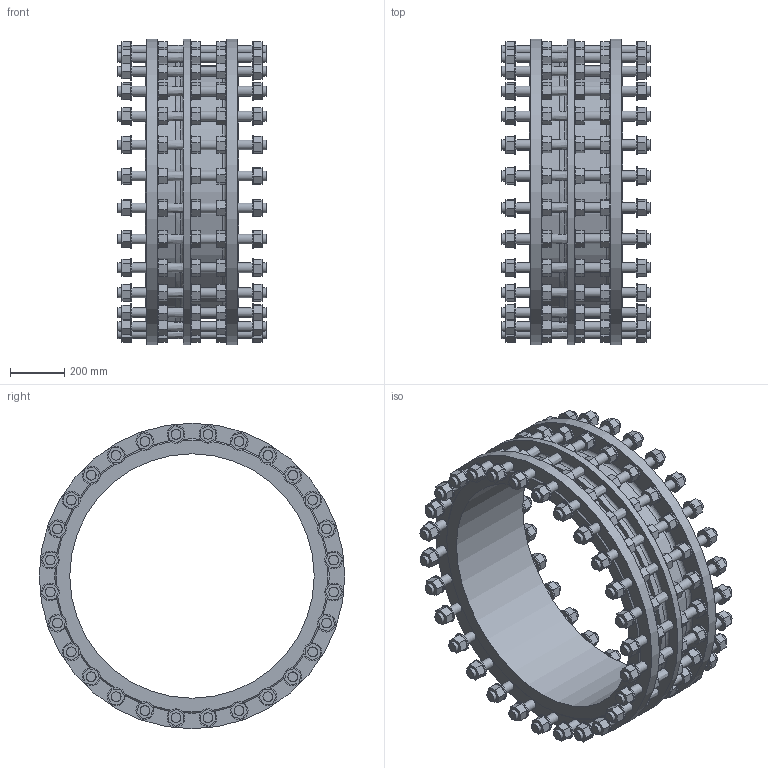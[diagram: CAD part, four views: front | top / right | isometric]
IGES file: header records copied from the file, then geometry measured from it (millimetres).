
Start section: SolidWorks IGES file using analytic representation for surfaces
Global section: file name: \\avksan2\techshare\PBM outline export from Enovia\O_265_910_DN900_1XXXXX00_L=345_REV01.igs; native system: SolidWorks 2022; preprocessor: SolidWorks 2022; author: pbm; date: 241011.125500; units: millimetre
Bounding box: 545 x 1125 x 1125 mm (x, y, z)
Surface area: 5809989.9 mm2 (no closed solid volume)
Topology: 0 solids, 0 shells, 1628 faces, 7298 edges, 6980 vertices
Faces by surface type: bspline 1280, revolution 348
